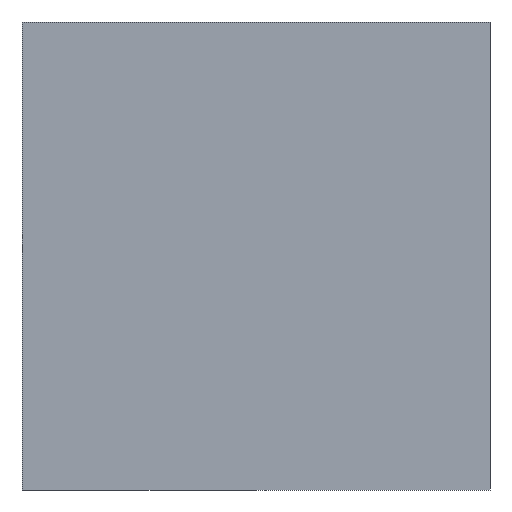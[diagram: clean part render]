
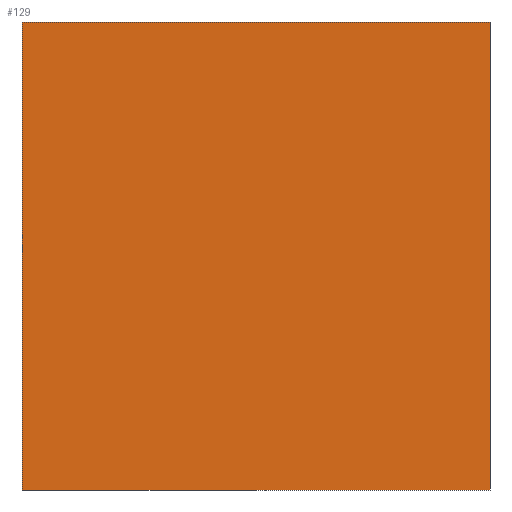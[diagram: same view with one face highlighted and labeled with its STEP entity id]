
A CAD part, left-side view. The second image highlights one B-rep face of the part: STEP entity #129.
In plain terms, the highlighted planar face has unit normal (-1, 0, 0).
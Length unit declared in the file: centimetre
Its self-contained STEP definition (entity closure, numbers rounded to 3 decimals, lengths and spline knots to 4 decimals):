
#11 = EDGE_CURVE ( 'NONE', #461, #401, #396, .T. ) ;
#15 = LINE ( 'NONE', #384, #143 ) ;
#27 = FACE_OUTER_BOUND ( 'NONE', #325, .T. ) ;
#66 = VERTEX_POINT ( 'NONE', #173 ) ;
#95 = CARTESIAN_POINT ( 'NONE',  ( 0., 0., 1000. ) ) ;
#112 = ORIENTED_EDGE ( 'NONE', *, *, #212, .F. ) ;
#119 = VECTOR ( 'NONE', #545, 100. ) ;
#129 = ADVANCED_FACE ( 'NONE', ( #27 ), #172, .F. ) ;
#138 = VECTOR ( 'NONE', #550, 100. ) ;
#143 = VECTOR ( 'NONE', #507, 100. ) ;
#150 = LINE ( 'NONE', #193, #119 ) ;
#164 = DIRECTION ( 'NONE',  ( 1., 0., 0. ) ) ;
#172 = PLANE ( 'NONE',  #476 ) ;
#173 = CARTESIAN_POINT ( 'NONE',  ( 0., 0., 0. ) ) ;
#193 = CARTESIAN_POINT ( 'NONE',  ( 0., 0., 1000. ) ) ;
#206 = EDGE_CURVE ( 'NONE', #401, #66, #15, .T. ) ;
#212 = EDGE_CURVE ( 'NONE', #461, #443, #411, .T. ) ;
#243 = CARTESIAN_POINT ( 'NONE',  ( 0., 1000., 0. ) ) ;
#245 = ORIENTED_EDGE ( 'NONE', *, *, #11, .T. ) ;
#318 = DIRECTION ( 'NONE',  ( 0., 0., -1. ) ) ;
#325 = EDGE_LOOP ( 'NONE', ( #490, #485, #112, #245 ) ) ;
#372 = CARTESIAN_POINT ( 'NONE',  ( 0., 1000., 1000. ) ) ;
#377 = CARTESIAN_POINT ( 'NONE',  ( 0., 1000., 1000. ) ) ;
#382 = DIRECTION ( 'NONE',  ( 0., 0., -1. ) ) ;
#384 = CARTESIAN_POINT ( 'NONE',  ( 0., 1000., 0. ) ) ;
#396 = LINE ( 'NONE', #534, #535 ) ;
#401 = VERTEX_POINT ( 'NONE', #243 ) ;
#411 = LINE ( 'NONE', #377, #138 ) ;
#443 = VERTEX_POINT ( 'NONE', #95 ) ;
#461 = VERTEX_POINT ( 'NONE', #372 ) ;
#476 = AXIS2_PLACEMENT_3D ( 'NONE', #520, #164, #382 ) ;
#480 = EDGE_CURVE ( 'NONE', #443, #66, #150, .T. ) ;
#485 = ORIENTED_EDGE ( 'NONE', *, *, #480, .F. ) ;
#490 = ORIENTED_EDGE ( 'NONE', *, *, #206, .T. ) ;
#507 = DIRECTION ( 'NONE',  ( 0., -1., 0. ) ) ;
#520 = CARTESIAN_POINT ( 'NONE',  ( 0., 1000., 1000. ) ) ;
#534 = CARTESIAN_POINT ( 'NONE',  ( 0., 1000., 1000. ) ) ;
#535 = VECTOR ( 'NONE', #318, 100. ) ;
#545 = DIRECTION ( 'NONE',  ( 0., 0., -1. ) ) ;
#550 = DIRECTION ( 'NONE',  ( 0., -1., 0. ) ) ;
